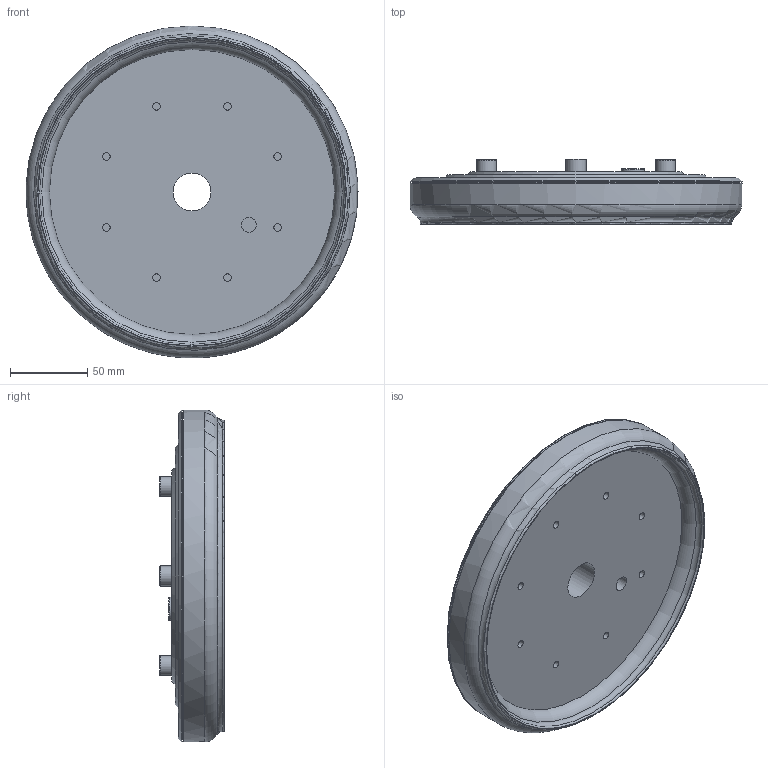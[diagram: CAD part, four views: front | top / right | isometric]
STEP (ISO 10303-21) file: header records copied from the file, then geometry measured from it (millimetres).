
FILE_DESCRIPTION (( 'STEP AP214' ), '1' );
FILE_NAME ('10FF.215.001.15.STEP', '2026-02-19T20:03:27', ( '' ), ( '' ), 'SwSTEP 2.0', 'SolidWorks 2025', '' );
FILE_SCHEMA (( 'AUTOMOTIVE_DESIGN' ));
Length unit declared in the file: millimetre
Products named in the file (1): 10FF.215.001.15
Bounding box: 215 x 42 x 215 mm (x, y, z)
Volume: 751940.5 mm3; surface area: 117750.3 mm2
Topology: 1 solids, 10 shells, 153 faces, 344 edges, 223 vertices
Faces by surface type: plane 68, cylinder 53, cone 21, torus 11
Full cylindrical faces by diameter (mm): 4.917 x16, 8.3 x1, 8.7 x1, 9.7 x1, 13 x4, 15 x1, 24.5 x1, 185 x1, 199.502 x1, 215 x2
Entity records: 3841 total; most frequent: CARTESIAN_POINT 818, DIRECTION 660, ORIENTED_EDGE 496, AXIS2_PLACEMENT_3D 288, EDGE_CURVE 248, EDGE_LOOP 230, FACE_OUTER_BOUND 193, VERTEX_POINT 188
